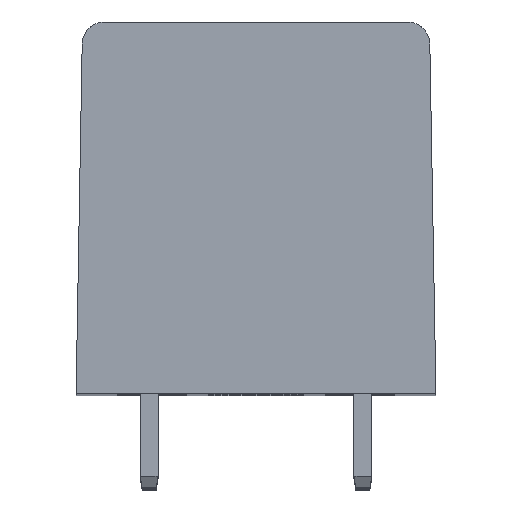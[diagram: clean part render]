
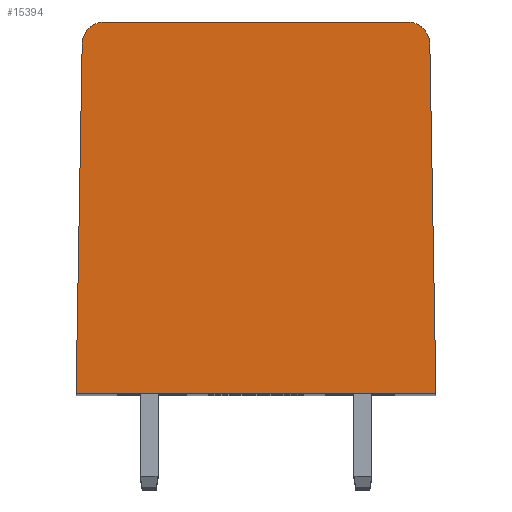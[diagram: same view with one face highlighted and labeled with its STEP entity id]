
A CAD part, top view. The second image highlights one B-rep face of the part: STEP entity #15394.
In plain terms, the highlighted planar face has unit normal (0, 0, 1).
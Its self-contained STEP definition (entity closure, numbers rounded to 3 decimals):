
#7934 = DIRECTION ( 'NONE',  ( 0., -1., 0. ) ) ;
#7935 = DIRECTION ( 'NONE',  ( 0., 0., 1. ) ) ;
#7936 = CARTESIAN_POINT ( 'NONE',  ( -6.729, 15.5, 0. ) ) ;
#7937 = AXIS2_PLACEMENT_3D ( 'NONE', #7936, #7935, #7934 ) ;
#7938 = CIRCLE ( 'NONE', #7937, 1. ) ;
#7939 = CARTESIAN_POINT ( 'NONE',  ( -7.729, 15.517, 0. ) ) ;
#7978 = CARTESIAN_POINT ( 'NONE',  ( 6.729, 16.5, 0. ) ) ;
#7979 = DIRECTION ( 'NONE',  ( -1., 0., 0. ) ) ;
#7980 = VECTOR ( 'NONE', #7979, 1000. ) ;
#7981 = CARTESIAN_POINT ( 'NONE',  ( 0., 16.5, 0. ) ) ;
#7982 = LINE ( 'NONE', #7981, #7980 ) ;
#7983 = CARTESIAN_POINT ( 'NONE',  ( -6.729, 16.5, 0. ) ) ;
#8481 = CARTESIAN_POINT ( 'NONE',  ( 7.729, 15.517, 0. ) ) ;
#8482 = DIRECTION ( 'NONE',  ( 0., -1., 0. ) ) ;
#8483 = DIRECTION ( 'NONE',  ( 0., 0., 1. ) ) ;
#8484 = AXIS2_PLACEMENT_3D ( 'NONE', #8489, #8483, #8482 ) ;
#8485 = CIRCLE ( 'NONE', #8484, 1. ) ;
#8489 = CARTESIAN_POINT ( 'NONE',  ( 6.729, 15.5, 0. ) ) ;
#8964 = DIRECTION ( 'NONE',  ( -0.017, -1., 0. ) ) ;
#8965 = VECTOR ( 'NONE', #8964, 1000. ) ;
#8966 = CARTESIAN_POINT ( 'NONE',  ( -7.729, 15.517, 0. ) ) ;
#8967 = LINE ( 'NONE', #8966, #8965 ) ;
#8968 = CARTESIAN_POINT ( 'NONE',  ( -8., 0., 0. ) ) ;
#9022 = DIRECTION ( 'NONE',  ( 0.017, -1., 0. ) ) ;
#9023 = VECTOR ( 'NONE', #9022, 1000. ) ;
#9024 = CARTESIAN_POINT ( 'NONE',  ( 7.865, 7.759, 0. ) ) ;
#9025 = LINE ( 'NONE', #9024, #9023 ) ;
#9026 = CARTESIAN_POINT ( 'NONE',  ( 8., 0., 0. ) ) ;
#9027 = DIRECTION ( 'NONE',  ( 1., 0., 0. ) ) ;
#9028 = VECTOR ( 'NONE', #9027, 1000. ) ;
#9029 = CARTESIAN_POINT ( 'NONE',  ( 0., 0., 0. ) ) ;
#9030 = LINE ( 'NONE', #9029, #9028 ) ;
#9079 = DIRECTION ( 'NONE',  ( 1., 0., 0. ) ) ;
#9080 = DIRECTION ( 'NONE',  ( 0., 0., 1. ) ) ;
#9081 = CARTESIAN_POINT ( 'NONE',  ( -8.096, 0., 0. ) ) ;
#9082 = AXIS2_PLACEMENT_3D ( 'NONE', #9081, #9080, #9079 ) ;
#9083 = PLANE ( 'NONE',  #9082 ) ;
#9084 = FACE_OUTER_BOUND ( 'NONE', #15395, .T. ) ;
#14589 = VERTEX_POINT ( 'NONE', #7939 ) ;
#14591 = EDGE_CURVE ( 'NONE', #14602, #14589, #7938, .T. ) ;
#14602 = VERTEX_POINT ( 'NONE', #7983 ) ;
#14604 = EDGE_CURVE ( 'NONE', #14605, #14602, #7982, .T. ) ;
#14605 = VERTEX_POINT ( 'NONE', #7978 ) ;
#14987 = EDGE_CURVE ( 'NONE', #14988, #14605, #8485, .T. ) ;
#14988 = VERTEX_POINT ( 'NONE', #8481 ) ;
#15338 = VERTEX_POINT ( 'NONE', #8968 ) ;
#15340 = EDGE_CURVE ( 'NONE', #14589, #15338, #8967, .T. ) ;
#15375 = ORIENTED_EDGE ( 'NONE', *, *, #14591, .T. ) ;
#15376 = ORIENTED_EDGE ( 'NONE', *, *, #15340, .T. ) ;
#15377 = ORIENTED_EDGE ( 'NONE', *, *, #15378, .T. ) ;
#15378 = EDGE_CURVE ( 'NONE', #15338, #15379, #9030, .T. ) ;
#15379 = VERTEX_POINT ( 'NONE', #9026 ) ;
#15380 = ORIENTED_EDGE ( 'NONE', *, *, #15381, .F. ) ;
#15381 = EDGE_CURVE ( 'NONE', #14988, #15379, #9025, .T. ) ;
#15382 = ORIENTED_EDGE ( 'NONE', *, *, #14987, .T. ) ;
#15394 = ADVANCED_FACE ( 'NONE', ( #9084 ), #9083, .T. ) ;
#15395 = EDGE_LOOP ( 'NONE', ( #15396, #15375, #15376, #15377, #15380, #15382 ) ) ;
#15396 = ORIENTED_EDGE ( 'NONE', *, *, #14604, .T. ) ;
